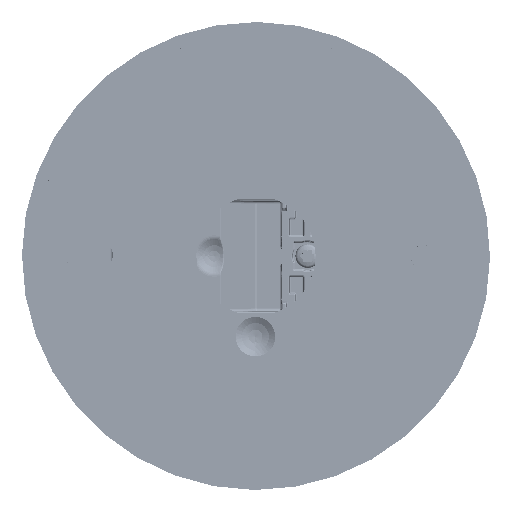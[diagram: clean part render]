
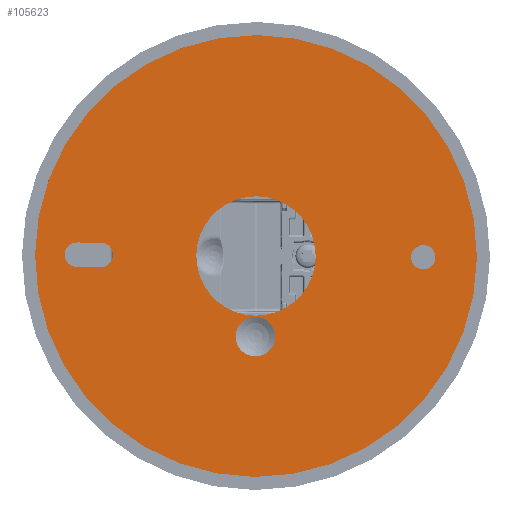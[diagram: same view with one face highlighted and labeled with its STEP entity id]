
A CAD part, top view. The second image highlights one B-rep face of the part: STEP entity #105623.
In plain terms, the highlighted planar face has unit normal (0, 0, 1).
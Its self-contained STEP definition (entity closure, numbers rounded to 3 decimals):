
#6075=FACE_BOUND('',#24831,.T.);
#6076=FACE_BOUND('',#24832,.T.);
#6077=FACE_BOUND('',#24833,.T.);
#6078=FACE_BOUND('',#24834,.T.);
#17046=PLANE('',#112101);
#18615=FACE_OUTER_BOUND('',#24830,.T.);
#24830=EDGE_LOOP('',(#74357));
#24831=EDGE_LOOP('',(#74358));
#24832=EDGE_LOOP('',(#74359));
#24833=EDGE_LOOP('',(#74360,#74361,#74362,#74363));
#24834=EDGE_LOOP('',(#74364));
#30977=LINE('',#146780,#36550);
#31068=LINE('',#150698,#36641);
#36550=VECTOR('',#120560,10.);
#36641=VECTOR('',#121265,10.);
#42165=CIRCLE('',#111783,2.05);
#42172=CIRCLE('',#111796,2.05);
#42174=CIRCLE('',#111800,10.);
#42331=CIRCLE('',#112065,3.317);
#42342=CIRCLE('',#112100,37.);
#42343=CIRCLE('',#112102,2.05);
#46555=VERTEX_POINT('',#146757);
#46560=VERTEX_POINT('',#146777);
#46561=VERTEX_POINT('',#146779);
#46562=VERTEX_POINT('',#146783);
#46565=VERTEX_POINT('',#146823);
#46707=VERTEX_POINT('',#150468);
#46733=VERTEX_POINT('',#150693);
#46734=VERTEX_POINT('',#150697);
#56849=EDGE_CURVE('',#46555,#46555,#42165,.T.);
#56859=EDGE_CURVE('',#46560,#46561,#30977,.T.);
#56862=EDGE_CURVE('',#46562,#46560,#42172,.T.);
#56866=EDGE_CURVE('',#46565,#46565,#42174,.T.);
#57195=EDGE_CURVE('',#46707,#46707,#42331,.T.);
#57241=EDGE_CURVE('',#46733,#46733,#42342,.T.);
#57242=EDGE_CURVE('',#46734,#46562,#31068,.T.);
#57243=EDGE_CURVE('',#46561,#46734,#42343,.T.);
#74357=ORIENTED_EDGE('',*,*,#57241,.F.);
#74358=ORIENTED_EDGE('',*,*,#57195,.T.);
#74359=ORIENTED_EDGE('',*,*,#56866,.T.);
#74360=ORIENTED_EDGE('',*,*,#56859,.F.);
#74361=ORIENTED_EDGE('',*,*,#56862,.F.);
#74362=ORIENTED_EDGE('',*,*,#57242,.F.);
#74363=ORIENTED_EDGE('',*,*,#57243,.F.);
#74364=ORIENTED_EDGE('',*,*,#56849,.F.);
#105623=ADVANCED_FACE('',(#18615,#6075,#6076,#6077,#6078),#17046,.T.);
#111783=AXIS2_PLACEMENT_3D('',#146759,#120533,#120534);
#111796=AXIS2_PLACEMENT_3D('',#146785,#120565,#120566);
#111800=AXIS2_PLACEMENT_3D('',#146824,#120573,#120574);
#112065=AXIS2_PLACEMENT_3D('',#150469,#121163,#121164);
#112100=AXIS2_PLACEMENT_3D('',#150695,#121261,#121262);
#112101=AXIS2_PLACEMENT_3D('',#150696,#121263,#121264);
#112102=AXIS2_PLACEMENT_3D('',#150699,#121266,#121267);
#120533=DIRECTION('center_axis',(0.,0.,1.));
#120534=DIRECTION('ref_axis',(-1.,0.,0.));
#120560=DIRECTION('',(0.,-1.,0.));
#120565=DIRECTION('center_axis',(0.,0.,1.));
#120566=DIRECTION('ref_axis',(-1.,0.,0.));
#120573=DIRECTION('center_axis',(0.,0.,-1.));
#120574=DIRECTION('ref_axis',(1.,0.,0.));
#121163=DIRECTION('center_axis',(0.,0.,-1.));
#121164=DIRECTION('ref_axis',(0.,1.,0.));
#121261=DIRECTION('center_axis',(0.,0.,-1.));
#121262=DIRECTION('ref_axis',(1.,0.,0.));
#121263=DIRECTION('center_axis',(0.,0.,1.));
#121264=DIRECTION('ref_axis',(1.,0.,0.));
#121265=DIRECTION('',(0.,1.,0.));
#121266=DIRECTION('center_axis',(0.,0.,1.));
#121267=DIRECTION('ref_axis',(1.,0.,0.));
#146757=CARTESIAN_POINT('',(2.05,-28.,33.5));
#146759=CARTESIAN_POINT('Origin',(0.,-28.,33.5));
#146777=CARTESIAN_POINT('',(-2.05,30.,33.5));
#146779=CARTESIAN_POINT('',(-2.05,26.,33.5));
#146780=CARTESIAN_POINT('',(-2.05,15.,33.5));
#146783=CARTESIAN_POINT('',(2.05,30.,33.5));
#146785=CARTESIAN_POINT('Origin',(0.,30.,33.5));
#146823=CARTESIAN_POINT('',(-10.,0.,33.5));
#146824=CARTESIAN_POINT('Origin',(0.,0.,33.5));
#150468=CARTESIAN_POINT('',(-16.817,0.,33.5));
#150469=CARTESIAN_POINT('Origin',(-13.5,0.,33.5));
#150693=CARTESIAN_POINT('',(-37.,0.,33.5));
#150695=CARTESIAN_POINT('Origin',(0.,0.,33.5));
#150696=CARTESIAN_POINT('Origin',(0.,0.,33.5));
#150697=CARTESIAN_POINT('',(2.05,26.,33.5));
#150698=CARTESIAN_POINT('',(2.05,13.,33.5));
#150699=CARTESIAN_POINT('Origin',(0.,26.,33.5));
